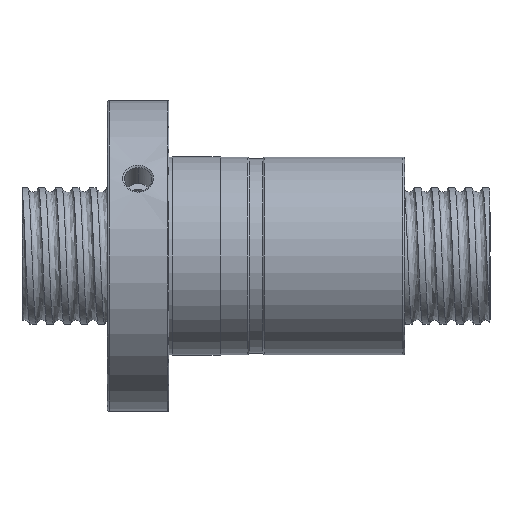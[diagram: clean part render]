
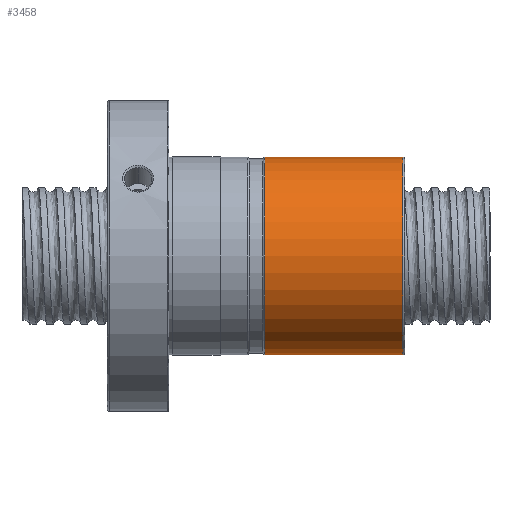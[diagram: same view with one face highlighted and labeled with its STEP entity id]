
A CAD part, front view. The second image highlights one B-rep face of the part: STEP entity #3458.
In plain terms, the highlighted cylindrical face has radius 28.9 mm (diameter 57.8 mm), a partial arc.
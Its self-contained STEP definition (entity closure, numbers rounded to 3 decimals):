
#1256 = CARTESIAN_POINT ( 'NONE',  ( -41.01, 0., -28.9 ) ) ;
#1491 = CARTESIAN_POINT ( 'NONE',  ( -0.5, 0., -28.9 ) ) ;
#1516 = CARTESIAN_POINT ( 'NONE',  ( -41.01, 0., 28.9 ) ) ;
#1632 = CARTESIAN_POINT ( 'NONE',  ( -0.5, 0., 28.9 ) ) ;
#1658 = DIRECTION ( 'NONE',  ( -1., 0., 0. ) ) ;
#1659 = VECTOR ( 'NONE', #1658, 1000. ) ;
#1660 = CARTESIAN_POINT ( 'NONE',  ( 0., 0., 28.9 ) ) ;
#1661 = LINE ( 'NONE', #1660, #1659 ) ;
#1662 = DIRECTION ( 'NONE',  ( -1., 0., 0. ) ) ;
#1663 = VECTOR ( 'NONE', #1662, 1000. ) ;
#1664 = CARTESIAN_POINT ( 'NONE',  ( 0., 0., -28.9 ) ) ;
#1665 = LINE ( 'NONE', #1664, #1663 ) ;
#2973 = VERTEX_POINT ( 'NONE', #1256 ) ;
#3068 = EDGE_CURVE ( 'NONE', #3109, #2973, #1665, .T. ) ;
#3071 = EDGE_CURVE ( 'NONE', #3105, #3093, #1661, .T. ) ;
#3093 = VERTEX_POINT ( 'NONE', #1516 ) ;
#3105 = VERTEX_POINT ( 'NONE', #1632 ) ;
#3109 = VERTEX_POINT ( 'NONE', #1491 ) ;
#3458 = ADVANCED_FACE ( 'NONE', ( #44376 ), #44375, .T. ) ;
#3470 = ORIENTED_EDGE ( 'NONE', *, *, #3071, .T. ) ;
#3471 = ORIENTED_EDGE ( 'NONE', *, *, #3472, .T. ) ;
#3472 = EDGE_CURVE ( 'NONE', #3093, #2973, #44544, .T. ) ;
#3510 = EDGE_LOOP ( 'NONE', ( #3511, #3512, #3470, #3471 ) ) ;
#3511 = ORIENTED_EDGE ( 'NONE', *, *, #3068, .F. ) ;
#3512 = ORIENTED_EDGE ( 'NONE', *, *, #3513, .T. ) ;
#3513 = EDGE_CURVE ( 'NONE', #3109, #3105, #44786, .T. ) ;
#44372 = DIRECTION ( 'NONE',  ( 0., 0., 1. ) ) ;
#44373 = DIRECTION ( 'NONE',  ( -1., 0., 0. ) ) ;
#44374 = AXIS2_PLACEMENT_3D ( 'NONE', #44382, #44373, #44372 ) ;
#44375 = CYLINDRICAL_SURFACE ( 'NONE', #44374, 28.9 ) ;
#44376 = FACE_OUTER_BOUND ( 'NONE', #3510, .T. ) ;
#44382 = CARTESIAN_POINT ( 'NONE',  ( 0., 0., 0. ) ) ;
#44541 = DIRECTION ( 'NONE',  ( 0., 0., 1. ) ) ;
#44542 = DIRECTION ( 'NONE',  ( 1., 0., 0. ) ) ;
#44543 = AXIS2_PLACEMENT_3D ( 'NONE', #44545, #44542, #44541 ) ;
#44544 = CIRCLE ( 'NONE', #44543, 28.9 ) ;
#44545 = CARTESIAN_POINT ( 'NONE',  ( -41.01, 0., 0. ) ) ;
#44782 = DIRECTION ( 'NONE',  ( 0., 0., -1. ) ) ;
#44783 = DIRECTION ( 'NONE',  ( -1., 0., 0. ) ) ;
#44784 = CARTESIAN_POINT ( 'NONE',  ( -0.5, 0., 0. ) ) ;
#44785 = AXIS2_PLACEMENT_3D ( 'NONE', #44784, #44783, #44782 ) ;
#44786 = CIRCLE ( 'NONE', #44785, 28.9 ) ;
